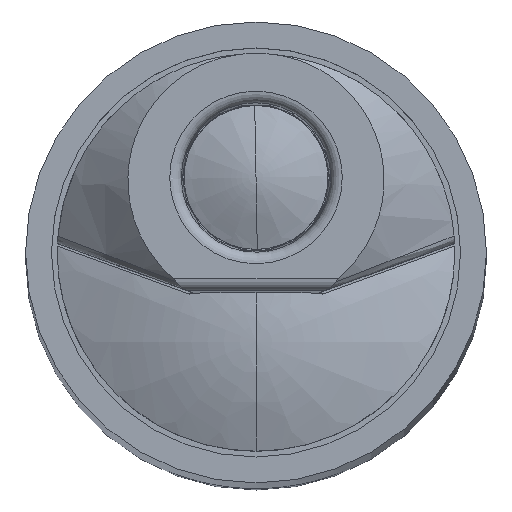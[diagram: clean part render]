
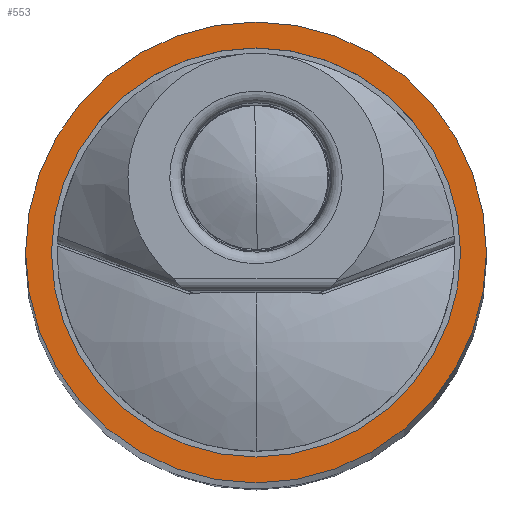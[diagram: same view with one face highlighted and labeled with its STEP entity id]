
A CAD part, top view. The second image highlights one B-rep face of the part: STEP entity #553.
In plain terms, the highlighted planar face has unit normal (0, 0, 1).
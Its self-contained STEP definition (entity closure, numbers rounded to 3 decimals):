
#40=FACE_BOUND('',#87,.T.);
#50=FACE_OUTER_BOUND('',#86,.T.);
#86=EDGE_LOOP('',(#383));
#87=EDGE_LOOP('',(#384,#385));
#126=CIRCLE('',#615,1.775);
#127=CIRCLE('',#616,1.775);
#128=CIRCLE('',#618,2.);
#240=VERTEX_POINT('',#967);
#241=VERTEX_POINT('',#969);
#242=VERTEX_POINT('',#973);
#298=EDGE_CURVE('',#240,#241,#126,.T.);
#299=EDGE_CURVE('',#241,#240,#127,.T.);
#300=EDGE_CURVE('',#242,#242,#128,.T.);
#383=ORIENTED_EDGE('',*,*,#300,.F.);
#384=ORIENTED_EDGE('',*,*,#299,.F.);
#385=ORIENTED_EDGE('',*,*,#298,.F.);
#505=PLANE('',#617);
#553=ADVANCED_FACE('',(#50,#40),#505,.T.);
#615=AXIS2_PLACEMENT_3D('',#970,#691,#692);
#616=AXIS2_PLACEMENT_3D('',#971,#693,#694);
#617=AXIS2_PLACEMENT_3D('',#972,#695,#696);
#618=AXIS2_PLACEMENT_3D('',#974,#697,#698);
#691=DIRECTION('center_axis',(0.,0.,1.));
#692=DIRECTION('ref_axis',(-1.,0.,0.));
#693=DIRECTION('center_axis',(0.,0.,1.));
#694=DIRECTION('ref_axis',(-1.,0.,0.));
#695=DIRECTION('center_axis',(0.,0.,1.));
#696=DIRECTION('ref_axis',(1.,0.,0.));
#697=DIRECTION('center_axis',(0.,0.,-1.));
#698=DIRECTION('ref_axis',(-1.,0.,0.));
#967=CARTESIAN_POINT('',(-1.775,0.,-0.6));
#969=CARTESIAN_POINT('',(1.775,0.,-0.6));
#970=CARTESIAN_POINT('Origin',(0.,0.,-0.6));
#971=CARTESIAN_POINT('Origin',(0.,0.,-0.6));
#972=CARTESIAN_POINT('Origin',(0.,0.,-0.6));
#973=CARTESIAN_POINT('',(-2.,0.,-0.6));
#974=CARTESIAN_POINT('Origin',(0.,0.,-0.6));
